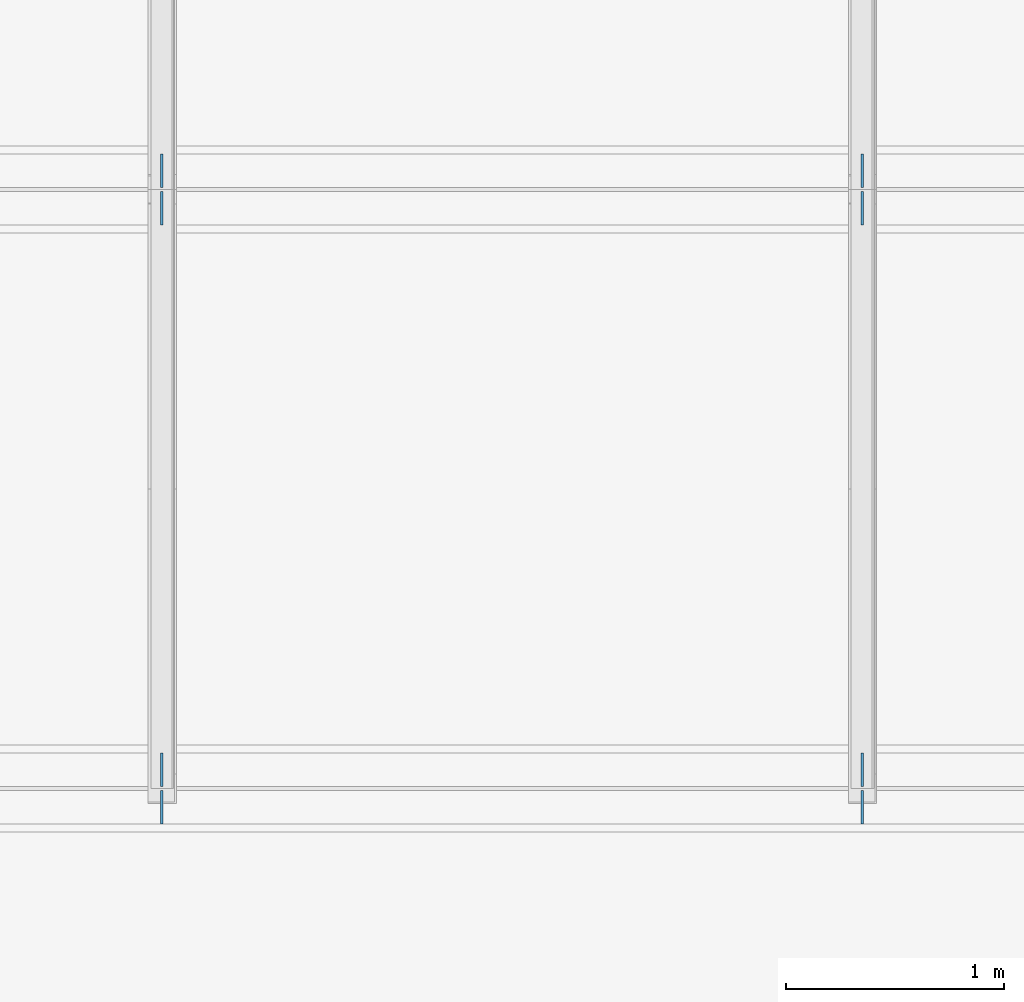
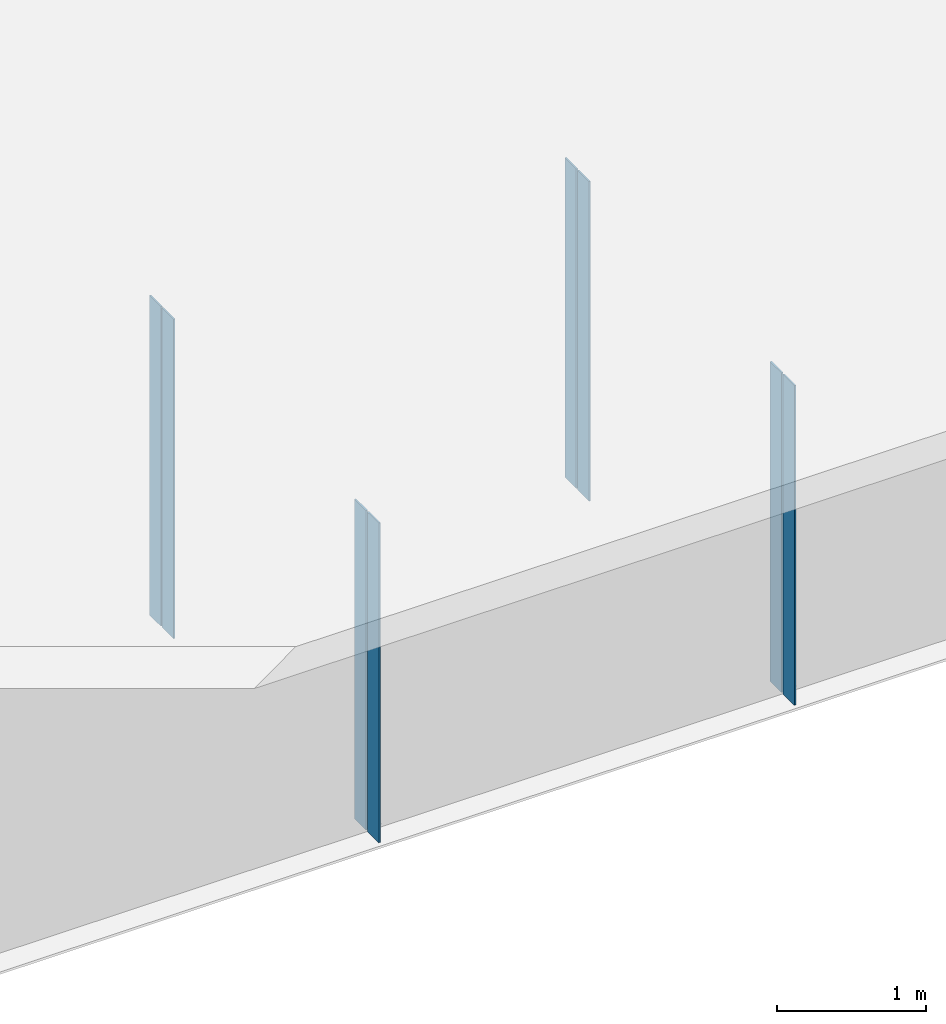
# One storey, part 5 of 20: 8 plates.
"""IFC4 building model written with IfcOpenShell, lengths in metres."""

from ifc_helpers import new_model, si_unit, frame, origin, origin_with_axes, origin_2d_with_axis, place, context, subcontext, project, spatial, rectangle, extrude, element, save


model = new_model("IFC4")

# Units and contexts
model_context = context("Model", 3, precision=1e-05, world=origin())
body_context = subcontext(model_context, "Body", "Model", "MODEL_VIEW")
ifc_project = project(units=[si_unit("LENGTHUNIT", "METRE"), si_unit("AREAUNIT", "SQUARE_METRE"), si_unit("VOLUMEUNIT", "CUBIC_METRE"), si_unit("PLANEANGLEUNIT", "RADIAN")], contexts=[model_context])

# Site, building, storey
site_placement = place(None, origin_with_axes())
site = spatial("IfcSite", under=ifc_project, at=site_placement, Name="Default Site")
building_placement = place(site_placement, origin_with_axes())
building = spatial("IfcBuilding", under=site, at=building_placement, Name="Bridge Structure")
storey_placement = place(building_placement, origin_with_axes())
storey = spatial("IfcBuildingStorey", under=building, at=storey_placement, Name="Superstructure")

# Plates
for number, where, z_axis, x_axis, name in (
    (1, (16.07, -5.41425, -1.307), (0.0, 0.0, 1.0), (1.0, 0.0, 0.0), "Intermediate Stiffener 1"),
    (2, (16.07, -5.58575, -1.307), (0.0, 0.0, 1.0), (1.0, 0.0, 0.0), "Intermediate Stiffener 1"),
    (3, (19.284, -5.41425, -1.307), (0.0, 0.0, 1.0), (1.0, 0.0, 0.0), "Intermediate Stiffener 1"),
    (4, (19.284, -5.58575, -1.307), (0.0, 0.0, 1.0), (1.0, 0.0, 0.0), "Intermediate Stiffener 1"),
    (5, (16.07, -2.66425, -1.307), (0.0, 0.0, 1.0), (1.0, 0.0, 0.0), "Intermediate Stiffener 2"),
    (6, (16.07, -2.83575, -1.307), (0.0, 0.0, 1.0), (1.0, 0.0, 0.0), "Intermediate Stiffener 2"),
    (7, (19.284, -2.66425, -1.307), (0.0, 0.0, 1.0), (1.0, 0.0, 0.0), "Intermediate Stiffener 2"),
    (8, (19.284, -2.83575, -1.307), (0.0, 0.0, 1.0), (1.0, 0.0, 0.0), "Intermediate Stiffener 2"),
):
    element("IfcPlate", number, at=place(storey_placement, frame(where, z_axis=z_axis, x_axis=x_axis)), inside=storey, Name=name, context=body_context, shape_type="SweptSolid", body=[
        extrude(rectangle(XDim=0.012, YDim=0.1535, at=origin_2d_with_axis()), origin_with_axes(), (0.0, 0.0, 1.0), 2.614),
    ])

save(model, "model.ifc")
